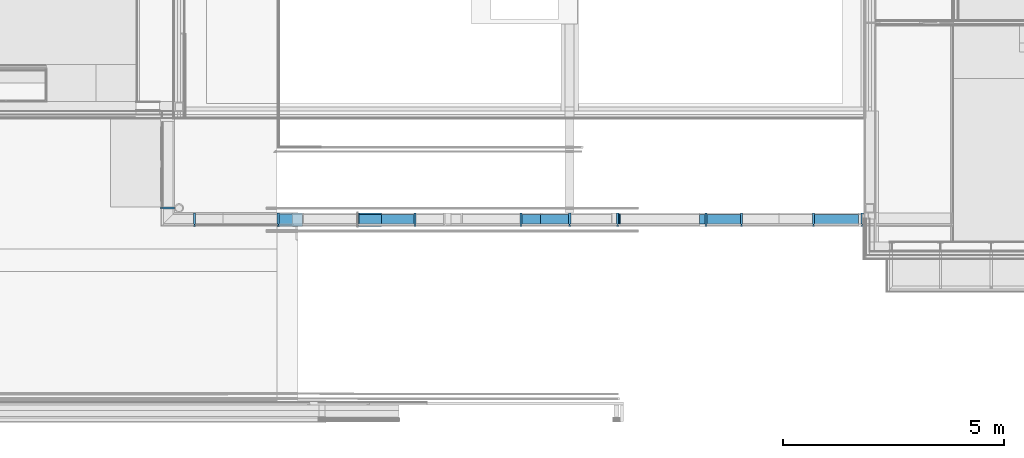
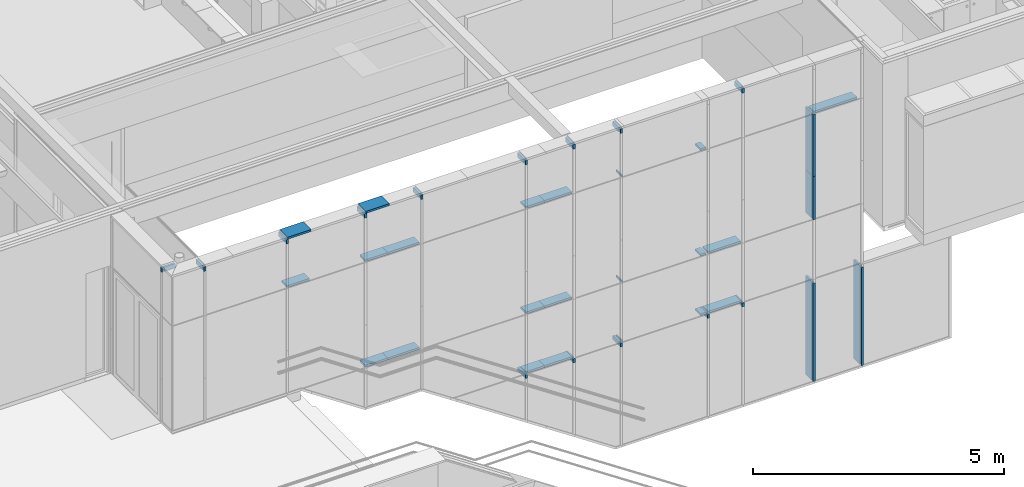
# One storey, part 4 of 137: 40 members, 1 element without a shape of its own.
"""IFC2X3 building model written with IfcOpenShell, lengths in millimetres."""

from ifc_helpers import new_model, entity, si_unit, converted_unit, derived_unit, money_unit, direction, frame, origin_with_axes, place, context, subcontext, project, spatial, faceted_brep, source, transform, mapped, material, type_object, type_shapes, element, aggregate, save


model = new_model("IFC2X3")

# Units and contexts
model_context = context("Model", 3, precision=0.01, world=origin_with_axes(), true_north=direction((0.0, 1.0)))
body_context = subcontext(model_context, "Body", "Model", "MODEL_VIEW")
ifc_project = project(units=[si_unit("LENGTHUNIT", "METRE", prefix="MILLI"), si_unit("AREAUNIT", "SQUARE_METRE"), si_unit("VOLUMEUNIT", "CUBIC_METRE"), converted_unit("PLANEANGLEUNIT", "DEGREE", entity("IfcPlaneAngleMeasure", 0.0174532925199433), si_unit("PLANEANGLEUNIT", "RADIAN"), dimensions=[0, 0, 0, 0, 0, 0, 0]), money_unit("EUR"), converted_unit("TIMEUNIT", "Year", entity("IfcTimeMeasure", 31556926.0), si_unit("TIMEUNIT", "SECOND"), dimensions=[0, 0, 1, 0, 0, 0, 0]), si_unit("MASSUNIT", "GRAM", prefix="KILO"), si_unit("THERMODYNAMICTEMPERATUREUNIT", "DEGREE_CELSIUS"), si_unit("LUMINOUSINTENSITYUNIT", "LUMEN"), si_unit("ENERGYUNIT", "JOULE", prefix="MEGA"), derived_unit("THERMALCONDUCTANCEUNIT", [(si_unit("POWERUNIT", "WATT"), 1), (si_unit("LENGTHUNIT", "METRE"), -1), (si_unit("THERMODYNAMICTEMPERATUREUNIT", "KELVIN"), -1)]), derived_unit("SPECIFICHEATCAPACITYUNIT", [(si_unit("ENERGYUNIT", "JOULE"), 1), (si_unit("MASSUNIT", "GRAM", prefix="KILO"), -1), (si_unit("THERMODYNAMICTEMPERATUREUNIT", "KELVIN"), -1)]), derived_unit("MASSDENSITYUNIT", [(si_unit("MASSUNIT", "GRAM", prefix="KILO"), 1), (si_unit("VOLUMEUNIT", "CUBIC_METRE"), -1)])], contexts=[model_context])

# Site, building, storey
site_placement = place(None, origin_with_axes())
site = spatial("IfcSite", under=ifc_project, at=site_placement, Name="Site", CompositionType="ELEMENT")
building_placement = place(site_placement, origin_with_axes())
building = spatial("IfcBuilding", under=site, at=building_placement, Name="Naam gebouw", CompositionType="ELEMENT")
storey_placement = place(building_placement, frame((0.0, 0.0, 3960.0), z_axis=(0.0, 0.0, 1.0), x_axis=(1.0, 0.0, 0.0)))
storey = spatial("IfcBuildingStorey", under=building, at=storey_placement, Name="1e verdieping", CompositionType="ELEMENT", Elevation=3960.0)

# Curtain wall, members
curtain_wall_type = type_object("IfcCurtainWallType", Name="Curtain Wall Type", PredefinedType="NOTDEFINED")
curtain_wall_placement = place(storey_placement, frame((8473.014787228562, 4364.43626274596, -3949.999921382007), z_axis=(0.0, 0.0, 1.0), x_axis=(1.0, 0.0, 0.0)))
curtain_wall = element("IfcCurtainWall", 1, at=curtain_wall_placement, inside=storey, type_object=curtain_wall_type, Name="21_Vliesgevel-x")
ifc_material = material(Name="Metaal - Staal AFW")
member_type_1 = type_object("IfcMemberType", Name="Transom Frame 50 x 258", PredefinedType="MULLION")
shared_shape_1 = source(origin_with_axes(), body_context, "Body", "Brep", [
    faceted_brep([(25.0, -17.4, 24.99999999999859), (25.0, -17.4, 1020.019917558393), (25.0, -237.0, 1020.019917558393), (25.0, -237.0, 24.99999999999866), (-25.0, -17.4, 24.99999999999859), (-25.0, -17.4, 1020.019917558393), (-25.0, -237.0, 1020.019917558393), (-25.0, -237.0, 24.99999999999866)], [[[0, 1, 2, 3]], [[4, 5, 1, 0]], [[2, 1, 5, 6]], [[3, 2, 6, 7]], [[3, 7, 4, 0]], [[7, 6, 5, 4]]]),
])
member_1_placement = place(curtain_wall_placement, frame((14749.92173186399, -161.4362627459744, 6549.999915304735), z_axis=(1.0, 0.0, 7.203271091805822e-09), x_axis=(-7.203271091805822e-09, 0.0, 1.0)))
member_1 = element("IfcMember", 2, at=member_1_placement, type_object=member_type_1, material=ifc_material, Name="_Kader-x", ObjectType="MULLION", context=body_context, shape_type="MappedRepresentation", body=[
    mapped(shared_shape_1, transform((0.0, 0.0, 0.0))),
])
shared_shape_2 = source(origin_with_axes(), body_context, "Body", "Brep", [
    faceted_brep([(25.0, -17.4, 25.00000025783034), (25.0, -17.4, 52.96129333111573), (25.0, -237.0, 52.96129333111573), (25.0, -237.0, 25.00000351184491), (-25.0, -17.4, 25.00000025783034), (-25.0, -17.4, 52.96129333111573), (-25.0, -237.0, 52.96129333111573), (-25.0, -237.0, 25.00000351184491)], [[[0, 1, 2, 3]], [[4, 5, 1, 0]], [[2, 1, 5, 6]], [[3, 2, 6, 7]], [[3, 7, 4, 0]], [[7, 6, 5, 4]]]),
])
member_2_placement = place(curtain_wall_placement, frame((10316.98035228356, -161.4362627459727, 2535.000025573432), z_axis=(1.0, 0.0, 0.0), x_axis=(0.0, 0.0, 1.0)))
member_2 = element("IfcMember", 3, at=member_2_placement, type_object=member_type_1, material=ifc_material, Name="h METAAL_Kader-x", ObjectType="MULLION", context=body_context, shape_type="MappedRepresentation", body=[
    mapped(shared_shape_2, transform((0.0, 0.0, 0.0))),
])
member_3_placement = place(curtain_wall_placement, frame((10316.98037376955, -161.4362627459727, 3984.999927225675), z_axis=(1.0, 0.0, 0.0), x_axis=(0.0, 0.0, 1.0)))
member_3 = element("IfcMember", 4, at=member_3_placement, type_object=member_type_1, material=ifc_material, Name="_Kader-x", ObjectType="MULLION", context=body_context, shape_type="MappedRepresentation", body=[
    mapped(shared_shape_2, transform((0.0, 0.0, 0.0))),
])
member_4_placement = place(curtain_wall_placement, frame((10316.98037468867, -161.4362627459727, 6549.999915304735), z_axis=(1.0, 0.0, 0.0), x_axis=(0.0, 0.0, 1.0)))
member_4 = element("IfcMember", 5, at=member_4_placement, type_object=member_type_1, material=ifc_material, Name="_Kader-x", ObjectType="MULLION", context=body_context, shape_type="MappedRepresentation", body=[
    mapped(shared_shape_2, transform((0.0, 0.0, 0.0))),
])
shared_shape_3 = source(origin_with_axes(), body_context, "Body", "Brep", [
    faceted_brep([(25.0, -17.4, 24.99999999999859), (25.0, -17.4, 442.9619304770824), (25.0, -237.0, 442.9619304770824), (25.0, -237.0, 24.99999999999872), (-25.0, -17.4, 24.99999999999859), (-25.0, -17.4, 442.9619304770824), (-25.0, -237.0, 442.9619304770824), (-25.0, -237.0, 24.99999999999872)], [[[0, 1, 2, 3]], [[4, 5, 1, 0]], [[2, 1, 5, 6]], [[3, 2, 6, 7]], [[3, 7, 4, 0]], [[7, 6, 5, 4]]]),
])
member_5_placement = place(curtain_wall_placement, frame((8126.979715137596, -161.4362627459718, 2535.000025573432), z_axis=(1.0, 0.0, 0.0), x_axis=(0.0, 0.0, 1.0)))
member_5 = element("IfcMember", 6, at=member_5_placement, type_object=member_type_1, material=ifc_material, Name="h METAAL_Kader-x", ObjectType="MULLION", context=body_context, shape_type="MappedRepresentation", body=[
    mapped(shared_shape_3, transform((0.0, 0.0, 0.0))),
])
member_6_placement = place(curtain_wall_placement, frame((8126.979715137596, -161.4362627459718, 3984.999927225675), z_axis=(1.0, 0.0, 0.0), x_axis=(0.0, 0.0, 1.0)))
member_6 = element("IfcMember", 7, at=member_6_placement, type_object=member_type_1, material=ifc_material, Name="_Kader-x", ObjectType="MULLION", context=body_context, shape_type="MappedRepresentation", body=[
    mapped(shared_shape_3, transform((0.0, 0.0, 0.0))),
])
member_7_placement = place(curtain_wall_placement, frame((8126.979717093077, -161.4362627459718, 6549.999915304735), z_axis=(1.0, 0.0, 0.0), x_axis=(0.0, 0.0, 1.0)))
member_7 = element("IfcMember", 8, at=member_7_placement, type_object=member_type_1, material=ifc_material, Name="_Kader-x", ObjectType="MULLION", context=body_context, shape_type="MappedRepresentation", body=[
    mapped(shared_shape_3, transform((0.0, 0.0, 0.0))),
])
shared_shape_4 = source(origin_with_axes(), body_context, "Body", "Brep", [
    faceted_brep([(25.0, -17.4, 25.00000020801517), (25.0, -17.4, 542.9612623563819), (25.0, -237.0, 542.9612623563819), (25.0, -237.0, 25.00000283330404), (-25.0, -17.4, 25.00000020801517), (-25.0, -17.4, 542.9612623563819), (-25.0, -237.0, 542.9612623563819), (-25.0, -237.0, 25.00000283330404)], [[[0, 1, 2, 3]], [[4, 5, 1, 0]], [[2, 1, 5, 6]], [[3, 2, 6, 7]], [[3, 7, 4, 0]], [[7, 6, 5, 4]]]),
])
member_8_placement = place(curtain_wall_placement, frame((4426.980383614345, -161.43626274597, 3984.999924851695), z_axis=(1.0, 0.0, 1.195486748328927e-08), x_axis=(-1.195486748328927e-08, 0.0, 1.0)))
member_8 = element("IfcMember", 9, at=member_8_placement, type_object=member_type_1, material=ifc_material, Name="h METAAL_Kader-x", ObjectType="MULLION", context=body_context, shape_type="MappedRepresentation", body=[
    mapped(shared_shape_4, transform((0.0, 0.0, 0.0))),
])
member_9_placement = place(curtain_wall_placement, frame((2626.986522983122, -161.43626274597, 6549.999915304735), z_axis=(1.0, 0.0, 0.0), x_axis=(0.0, 0.0, 1.0)))
member_9 = element("IfcMember", 10, at=member_9_placement, type_object=member_type_1, material=ifc_material, Name="_Kader-x", ObjectType="MULLION", context=body_context, shape_type="MappedRepresentation", body=[
    mapped(shared_shape_4, transform((0.0, 0.0, 0.0))),
])
member_10_placement = place(curtain_wall_placement, frame((4426.980398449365, -161.43626274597, 6549.999915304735), z_axis=(1.0, 0.0, 0.0), x_axis=(0.0, 0.0, 1.0)))
member_10 = element("IfcMember", 11, at=member_10_placement, type_object=member_type_1, material=ifc_material, Name="_Kader-x", ObjectType="MULLION", context=body_context, shape_type="MappedRepresentation", body=[
    mapped(shared_shape_4, transform((0.0, 0.0, 0.0))),
])
member_type_2 = type_object("IfcMemberType", Name="Mullion Frame 50 x 313", PredefinedType="MULLION")
shared_shape_5 = source(origin_with_axes(), body_context, "Body", "Brep", [
    faceted_brep([(10.0, -17.4, -2.010167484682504e-07), (10.0, 21.0, -2.010167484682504e-07), (10.0, 21.0, 95.00025928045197), (10.0, -17.4, 95.00025928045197), (-10.0, -17.4, -2.010167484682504e-07), (-10.0, 21.0, -2.010167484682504e-07), (-10.0, 21.0, 95.00025928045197), (-10.0, -17.4, 95.00025928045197)], [[[0, 1, 2, 3]], [[0, 4, 5, 1]], [[1, 5, 6, 2]], [[3, 2, 6, 7]], [[4, 0, 3, 7]], [[5, 4, 7, 6]]]),
    faceted_brep([(25.0, -272.0, -2.010167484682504e-07), (25.0, -17.4, -2.010167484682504e-07), (25.0, -17.4, 95.00025928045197), (25.0, -272.0, 95.00025928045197), (-25.0, -272.0, -2.010167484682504e-07), (-25.0, -17.4, -2.010167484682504e-07), (-25.0, -17.4, 95.00025928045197), (-25.0, -272.0, 95.00025928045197)], [[[0, 1, 2, 3]], [[0, 4, 5, 1]], [[1, 5, 6, 2]], [[3, 2, 6, 7]], [[4, 0, 3, 7]], [[5, 4, 7, 6]]]),
    faceted_brep([(-25.0, 40.49999999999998, -2.010167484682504e-07), (-25.0, 21.0, -2.010167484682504e-07), (-25.0, 21.0, 95.00025928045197), (-25.0, 40.49999999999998, 95.00025928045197), (25.0, 40.49999999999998, -2.010167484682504e-07), (25.0, 21.0, -2.010167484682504e-07), (25.0, 21.0, 95.00025928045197), (25.0, 40.49999999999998, 95.00025928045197)], [[[0, 1, 2, 3]], [[0, 4, 5, 1]], [[1, 5, 6, 2]], [[3, 2, 6, 7]], [[4, 0, 3, 7]], [[5, 4, 7, 6]]]),
])
member_11_placement = place(curtain_wall_placement, frame((13116.98043337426, -161.4362627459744, 2439.99976629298), z_axis=(0.0, 0.0, 1.0), x_axis=(-1.0, 0.0, 0.0)))
member_11 = element("IfcMember", 12, at=member_11_placement, type_object=member_type_2, material=ifc_material, Name="_Kader-x", ObjectType="MULLION", context=body_context, shape_type="MappedRepresentation", body=[
    mapped(shared_shape_5, transform((0.0, 0.0, 0.0))),
])
member_12_placement = place(curtain_wall_placement, frame((12316.98041549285, -161.4362627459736, 2439.99976629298), z_axis=(0.0, 0.0, 1.0), x_axis=(-1.0, 0.0, 0.0)))
member_12 = element("IfcMember", 13, at=member_12_placement, type_object=member_type_2, material=ifc_material, Name="_Kader-x", ObjectType="MULLION", context=body_context, shape_type="MappedRepresentation", body=[
    mapped(shared_shape_5, transform((0.0, 0.0, 0.0))),
])
member_type_3 = type_object("IfcMemberType", Name="50 x 313", PredefinedType="MULLION")
member_13_placement = place(curtain_wall_placement, frame((9226.979747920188, -161.4362627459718, 2439.99976629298), z_axis=(0.0, 0.0, 1.0), x_axis=(-1.0, 0.0, 0.0)))
member_13 = element("IfcMember", 14, at=member_13_placement, type_object=member_type_3, material=ifc_material, Name="_Kader-x", ObjectType="MULLION", context=body_context, shape_type="MappedRepresentation", body=[
    mapped(shared_shape_5, transform((0.0, 0.0, 0.0))),
])
member_14_placement = place(curtain_wall_placement, frame((10316.98035087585, -161.4362627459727, 2439.99976629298), z_axis=(1.481791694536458e-08, 0.0, 1.0), x_axis=(-1.0, 0.0, 1.481791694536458e-08)))
member_14 = element("IfcMember", 15, at=member_14_placement, type_object=member_type_2, material=ifc_material, Name="_Kader-x", ObjectType="MULLION", context=body_context, shape_type="MappedRepresentation", body=[
    mapped(shared_shape_5, transform((0.0, 0.0, 0.0))),
])
member_15_placement = place(curtain_wall_placement, frame((8126.979732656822, -161.4362627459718, 2439.99976629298), z_axis=(-1.844124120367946e-07, 0.0, 0.999999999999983), x_axis=(-0.999999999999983, 0.0, -1.844124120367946e-07)))
member_15 = element("IfcMember", 16, at=member_15_placement, type_object=member_type_2, material=ifc_material, Name="_Kader-x", ObjectType="MULLION", context=body_context, shape_type="MappedRepresentation", body=[
    mapped(shared_shape_5, transform((0.0, 0.0, 0.0))),
])
shared_shape_6 = source(origin_with_axes(), body_context, "Body", "Brep", [
    faceted_brep([(10.0, -17.4, 0.0), (10.0, 21.0, 0.0), (10.0, 21.0, 1054.999839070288), (10.0, -17.4, 1054.999839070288), (-10.0, -17.4, 0.0), (-10.0, 21.0, 0.0), (-10.0, 21.0, 1054.999839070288), (-10.0, -17.4, 1054.999839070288)], [[[0, 1, 2, 3]], [[0, 4, 5, 1]], [[1, 5, 6, 2]], [[3, 2, 6, 7]], [[4, 0, 3, 7]], [[5, 4, 7, 6]]]),
    faceted_brep([(25.0, -272.0, 0.0), (25.0, -17.4, 0.0), (25.0, -17.4, 1054.999839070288), (25.0, -272.0, 1054.999839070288), (-25.0, -272.0, 0.0), (-25.0, -17.4, 0.0), (-25.0, -17.4, 1054.999839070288), (-25.0, -272.0, 1054.999839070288)], [[[0, 1, 2, 3]], [[0, 4, 5, 1]], [[1, 5, 6, 2]], [[3, 2, 6, 7]], [[4, 0, 3, 7]], [[5, 4, 7, 6]]]),
    faceted_brep([(-25.0, 40.49999999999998, 0.0), (-25.0, 21.0, 0.0), (-25.0, 21.0, 1054.999839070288), (-25.0, 40.49999999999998, 1054.999839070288), (25.0, 40.49999999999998, 0.0), (25.0, 21.0, 0.0), (25.0, 21.0, 1054.999839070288), (25.0, 40.49999999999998, 1054.999839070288)], [[[0, 1, 2, 3]], [[0, 4, 5, 1]], [[1, 5, 6, 2]], [[3, 2, 6, 7]], [[4, 0, 3, 7]], [[5, 4, 7, 6]]]),
])
member_16_placement = place(curtain_wall_placement, frame((14749.92173168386, -161.4362627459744, 3984.999927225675), z_axis=(0.0, 0.0, 1.0), x_axis=(-1.0, 0.0, 0.0)))
member_16 = element("IfcMember", 17, at=member_16_placement, type_object=member_type_2, material=ifc_material, Name="h METAAL_Kader-x", ObjectType="MULLION", context=body_context, shape_type="MappedRepresentation", body=[
    mapped(shared_shape_6, transform((0.0, 0.0, 0.0))),
])
shared_shape_7 = source(origin_with_axes(), body_context, "Body", "Brep", [
    faceted_brep([(10.0, 21.0, 49.99999983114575), (10.0, 21.0, 2439.999727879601), (10.0, -17.4, 2439.999727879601), (10.0, -17.4, 50.00000013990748), (-10.0, 21.0, 49.99999983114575), (-10.0, 21.0, 2439.999727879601), (-10.0, -17.4, 2439.999727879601), (-10.0, -17.4, 50.00000013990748)], [[[0, 1, 2, 3]], [[4, 5, 1, 0]], [[2, 1, 5, 6]], [[3, 2, 6, 7]], [[3, 7, 4, 0]], [[7, 6, 5, 4]]]),
    faceted_brep([(25.0, -17.4, 50.00000013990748), (25.0, -17.4, 2439.999727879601), (25.0, -272.0, 2439.999727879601), (25.0, -272.0, 50.00000218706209), (-25.0, -17.4, 50.00000013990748), (-25.0, -17.4, 2439.999727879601), (-25.0, -272.0, 2439.999727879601), (-25.0, -272.0, 50.00000218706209)], [[[0, 1, 2, 3]], [[4, 5, 1, 0]], [[2, 1, 5, 6]], [[3, 2, 6, 7]], [[3, 7, 4, 0]], [[7, 6, 5, 4]]]),
    faceted_brep([(-25.0, 21.0, 49.99999983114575), (-25.0, 21.0, 2439.999727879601), (-25.0, 40.49999999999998, 2439.999727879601), (-25.0, 40.49999999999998, 49.99999967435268), (25.0, 21.0, 49.99999983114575), (25.0, 21.0, 2439.999727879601), (25.0, 40.49999999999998, 2439.999727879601), (25.0, 40.49999999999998, 49.99999967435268)], [[[0, 1, 2, 3]], [[4, 5, 1, 0]], [[2, 1, 5, 6]], [[3, 2, 6, 7]], [[3, 7, 4, 0]], [[7, 6, 5, 4]]]),
])
member_17_placement = place(curtain_wall_placement, frame((14749.9217513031, -161.4362627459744, 3.861439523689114e-05), z_axis=(-8.040669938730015e-09, 0.0, 1.0), x_axis=(-1.0, 0.0, -8.040669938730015e-09)))
member_17 = element("IfcMember", 18, at=member_17_placement, type_object=member_type_2, material=ifc_material, Name="h METAAL_Kader-x", ObjectType="MULLION", context=body_context, shape_type="MappedRepresentation", body=[
    mapped(shared_shape_7, transform((0.0, 0.0, 0.0))),
])
member_18_placement = place(curtain_wall_placement, frame((15856.6559201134, -161.4362627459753, 3.704461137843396e-05), z_axis=(9.58128546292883e-09, 0.0, 1.0), x_axis=(-1.0, 0.0, 9.58128546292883e-09)))
member_18 = element("IfcMember", 19, at=member_18_placement, type_object=member_type_2, material=ifc_material, Name="_Kader-x", ObjectType="MULLION", context=body_context, shape_type="MappedRepresentation", body=[
    mapped(shared_shape_7, transform((0.0, 0.0, 0.0))),
])
shared_shape_8 = source(origin_with_axes(), body_context, "Body", "Brep", [
    faceted_brep([(10.0, -17.4, -4.762904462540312e-09), (10.0, 21.0, -4.762904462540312e-09), (10.0, 21.0, 1510.000149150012), (10.0, -17.4, 1510.000149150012), (-10.0, -17.4, -4.762904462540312e-09), (-10.0, 21.0, -4.762904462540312e-09), (-10.0, 21.0, 1510.000149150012), (-10.0, -17.4, 1510.000149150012)], [[[0, 1, 2, 3]], [[0, 4, 5, 1]], [[1, 5, 6, 2]], [[3, 2, 6, 7]], [[4, 0, 3, 7]], [[5, 4, 7, 6]]]),
    faceted_brep([(25.0, -272.0, -4.762904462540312e-09), (25.0, -17.4, -4.762904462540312e-09), (25.0, -17.4, 1510.000149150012), (25.0, -272.0, 1510.000149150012), (-25.0, -272.0, -4.762904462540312e-09), (-25.0, -17.4, -4.762904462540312e-09), (-25.0, -17.4, 1510.000149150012), (-25.0, -272.0, 1510.000149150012)], [[[0, 1, 2, 3]], [[0, 4, 5, 1]], [[1, 5, 6, 2]], [[3, 2, 6, 7]], [[4, 0, 3, 7]], [[5, 4, 7, 6]]]),
    faceted_brep([(-25.0, 40.49999999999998, -4.762904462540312e-09), (-25.0, 21.0, -4.762904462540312e-09), (-25.0, 21.0, 1510.000149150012), (-25.0, 40.49999999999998, 1510.000149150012), (25.0, 40.49999999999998, -4.762904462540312e-09), (25.0, 21.0, -4.762904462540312e-09), (25.0, 21.0, 1510.000149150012), (25.0, 40.49999999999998, 1510.000149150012)], [[[0, 1, 2, 3]], [[0, 4, 5, 1]], [[1, 5, 6, 2]], [[3, 2, 6, 7]], [[4, 0, 3, 7]], [[5, 4, 7, 6]]]),
])
member_19_placement = place(curtain_wall_placement, frame((14749.92173168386, -161.4362627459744, 5039.999766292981), z_axis=(1.192864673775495e-10, 0.0, 1.0), x_axis=(-1.0, 0.0, 1.192864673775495e-10)))
member_19 = element("IfcMember", 20, at=member_19_placement, type_object=member_type_2, material=ifc_material, Name="_Kader-x", ObjectType="MULLION", context=body_context, shape_type="MappedRepresentation", body=[
    mapped(shared_shape_8, transform((0.0, 0.0, 0.0))),
])
shared_shape_9 = source(origin_with_axes(), body_context, "Body", "Brep", [
    faceted_brep([(25.0, -17.4, 24.99999999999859), (25.0, -17.4, 775.000017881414), (25.0, -237.0, 775.0000178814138), (25.0, -237.0, 24.99999999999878), (-25.0, -17.4, 24.99999999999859), (-25.0, -17.4, 775.000017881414), (-25.0, -237.0, 775.0000178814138), (-25.0, -237.0, 24.99999999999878)], [[[0, 1, 2, 3]], [[4, 5, 1, 0]], [[2, 1, 5, 6]], [[3, 2, 6, 7]], [[3, 7, 4, 0]], [[7, 6, 5, 4]]]),
])
member_20_placement = place(curtain_wall_placement, frame((12316.98041549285, -161.4362627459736, 2535.000025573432), z_axis=(1.0, 0.0, 0.0), x_axis=(0.0, 0.0, 1.0)))
member_20 = element("IfcMember", 21, at=member_20_placement, type_object=member_type_1, material=ifc_material, Name="h METAAL_Kader-x", ObjectType="MULLION", context=body_context, shape_type="MappedRepresentation", body=[
    mapped(shared_shape_9, transform((0.0, 0.0, 0.0))),
])
member_21_placement = place(curtain_wall_placement, frame((12316.98041549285, -161.4362627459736, 3984.999927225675), z_axis=(1.0, 0.0, 0.0), x_axis=(0.0, 0.0, 1.0)))
member_21 = element("IfcMember", 22, at=member_21_placement, type_object=member_type_1, material=ifc_material, Name="_Kader-x", ObjectType="MULLION", context=body_context, shape_type="MappedRepresentation", body=[
    mapped(shared_shape_9, transform((0.0, 0.0, 0.0))),
])
shared_shape_10 = source(origin_with_axes(), body_context, "Body", "Brep", [
    faceted_brep([(25.0, -237.0, 0.0), (25.0, -17.4, 0.0), (25.0, -17.4, 122.03876987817), (25.0, -237.0, 122.0387698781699), (-25.0, -237.0, 0.0), (-25.0, -17.4, 0.0), (-25.0, -17.4, 122.03876987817), (-25.0, -237.0, 122.0387698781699)], [[[0, 1, 2, 3]], [[0, 4, 5, 1]], [[1, 5, 6, 2]], [[3, 2, 6, 7]], [[4, 0, 3, 7]], [[5, 4, 7, 6]]]),
])
member_22_placement = place(curtain_wall_placement, frame((12169.94164561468, -161.4362627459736, 3984.999927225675), z_axis=(1.0, 0.0, 0.0), x_axis=(0.0, 0.0, 1.0)))
member_22 = element("IfcMember", 23, at=member_22_placement, type_object=member_type_1, material=ifc_material, Name="h METAAL_Kader-x", ObjectType="MULLION", context=body_context, shape_type="MappedRepresentation", body=[
    mapped(shared_shape_10, transform((0.0, 0.0, 0.0))),
])
member_23_placement = place(curtain_wall_placement, frame((12169.94164561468, -161.4362627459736, 2535.000025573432), z_axis=(1.0, 0.0, 0.0), x_axis=(0.0, 0.0, 1.0)))
member_23 = element("IfcMember", 24, at=member_23_placement, type_object=member_type_1, material=ifc_material, Name="_Kader-x", ObjectType="MULLION", context=body_context, shape_type="MappedRepresentation", body=[
    mapped(shared_shape_10, transform((0.0, 0.0, 0.0))),
])
member_24_placement = place(curtain_wall_placement, frame((12169.94164561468, -161.4362627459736, 6549.999915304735), z_axis=(1.0, 0.0, 0.0), x_axis=(0.0, 0.0, 1.0)))
member_24 = element("IfcMember", 25, at=member_24_placement, type_object=member_type_1, material=ifc_material, Name="_Kader-x", ObjectType="MULLION", context=body_context, shape_type="MappedRepresentation", body=[
    mapped(shared_shape_10, transform((0.0, 0.0, 0.0))),
])
shared_shape_11 = source(origin_with_axes(), body_context, "Body", "Brep", [
    faceted_brep([(25.0, -237.0, 0.0), (25.0, -17.4, 0.0), (25.0, -17.4, 632.0381023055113), (25.0, -237.0, 632.0381023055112), (-25.0, -237.0, 0.0), (-25.0, -17.4, 0.0), (-25.0, -17.4, 632.0381023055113), (-25.0, -237.0, 632.0381023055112)], [[[0, 1, 2, 3]], [[0, 4, 5, 1]], [[1, 5, 6, 2]], [[3, 2, 6, 7]], [[4, 0, 3, 7]], [[5, 4, 7, 6]]]),
])
member_25_placement = place(curtain_wall_placement, frame((8569.941645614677, -161.4362627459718, 3984.999927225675), z_axis=(1.0, 0.0, 0.0), x_axis=(0.0, 0.0, 1.0)))
member_25 = element("IfcMember", 26, at=member_25_placement, type_object=member_type_1, material=ifc_material, Name="_Kader-x", ObjectType="MULLION", context=body_context, shape_type="MappedRepresentation", body=[
    mapped(shared_shape_11, transform((0.0, 0.0, 0.0))),
])
member_26_placement = place(curtain_wall_placement, frame((8569.941645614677, -161.4362627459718, 2535.000025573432), z_axis=(1.0, 0.0, 0.0), x_axis=(0.0, 0.0, 1.0)))
member_26 = element("IfcMember", 27, at=member_26_placement, type_object=member_type_1, material=ifc_material, Name="h METAAL_Kader-x", ObjectType="MULLION", context=body_context, shape_type="MappedRepresentation", body=[
    mapped(shared_shape_11, transform((0.0, 0.0, 0.0))),
])
member_27_placement = place(curtain_wall_placement, frame((8569.941645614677, -161.4362627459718, 6549.999915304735), z_axis=(1.0, 0.0, 0.0), x_axis=(0.0, 0.0, 1.0)))
member_27 = element("IfcMember", 28, at=member_27_placement, type_object=member_type_1, material=ifc_material, Name="_Kader-x", ObjectType="MULLION", context=body_context, shape_type="MappedRepresentation", body=[
    mapped(shared_shape_11, transform((0.0, 0.0, 0.0))),
])
shared_shape_12 = source(origin_with_axes(), body_context, "Body", "Brep", [
    faceted_brep([(25.0, -237.0, -3.560529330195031e-07), (25.0, -17.4, -3.560529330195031e-07), (25.0, -17.4, 727.0387489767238), (25.0, -237.0, 727.0387484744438), (-25.0, -237.0, -3.560529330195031e-07), (-25.0, -17.4, -3.560529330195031e-07), (-25.0, -17.4, 727.0387489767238), (-25.0, -237.0, 727.0387484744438)], [[[0, 1, 2, 3]], [[0, 4, 5, 1]], [[1, 5, 6, 2]], [[3, 2, 6, 7]], [[4, 0, 3, 7]], [[5, 4, 7, 6]]]),
])
type_shapes(member_type_1, [shared_shape_1, shared_shape_2, shared_shape_3, shared_shape_4, shared_shape_9, shared_shape_10, shared_shape_11, shared_shape_12])
member_28_placement = place(curtain_wall_placement, frame((4969.941645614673, -161.43626274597, 3984.999931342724), z_axis=(1.0, 0.0, -2.287249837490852e-09), x_axis=(2.287249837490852e-09, 0.0, 1.0)))
member_28 = element("IfcMember", 29, at=member_28_placement, type_object=member_type_1, material=ifc_material, Name="h METAAL_Kader-x", ObjectType="MULLION", context=body_context, shape_type="MappedRepresentation", body=[
    mapped(shared_shape_12, transform((0.0, 0.0, 0.0))),
])
member_29_placement = place(curtain_wall_placement, frame((4969.941645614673, -161.43626274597, 6549.999915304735), z_axis=(1.0, 0.0, 0.0), x_axis=(0.0, 0.0, 1.0)))
member_29 = element("IfcMember", 30, at=member_29_placement, type_object=member_type_1, material=ifc_material, Name="_Kader-x", ObjectType="MULLION", context=body_context, shape_type="MappedRepresentation", body=[
    mapped(shared_shape_12, transform((0.0, 0.0, 0.0))),
])
member_type_4 = type_object("IfcMemberType", Name="Boundary Frame 50 x 313", PredefinedType="MULLION")
shared_shape_13 = source(origin_with_axes(), body_context, "Body", "Brep", [
    faceted_brep([(-35.0, -17.4, 0.0), (-35.0, -17.4, 542.9551298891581), (-35.0, 21.0, 542.9551298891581), (-35.0, 21.0, 0.0), (-15.0, -17.4, 0.0), (-15.0, -17.4, 542.9551298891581), (-15.0, 21.0, 542.9551298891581), (-15.0, 21.0, 0.0)], [[[0, 1, 2, 3]], [[4, 5, 1, 0]], [[1, 5, 6, 2]], [[3, 2, 6, 7]], [[0, 3, 7, 4]], [[7, 6, 5, 4]]]),
    faceted_brep([(-15.0, -21.0, 0.0), (-15.0, -21.0, 542.9551298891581), (-15.0, 21.0, 542.9551298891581), (-15.0, 21.0, 0.0), (0.0, -21.0, 0.0), (0.0, -21.0, 542.9551298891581), (0.0, 21.0, 542.9551298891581), (0.0, 21.0, 0.0)], [[[0, 1, 2, 3]], [[4, 5, 1, 0]], [[1, 5, 6, 2]], [[3, 2, 6, 7]], [[0, 3, 7, 4]], [[7, 6, 5, 4]]]),
    faceted_brep([(-50.0, -272.0, 0.0), (-50.0, -272.0, 542.9551298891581), (-50.0, -17.4, 542.9551298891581), (-50.0, -17.4, 0.0), (0.0, -272.0, 0.0), (0.0, -272.0, 542.9551298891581), (0.0, -17.4, 542.9551298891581), (0.0, -17.4, 0.0)], [[[0, 1, 2, 3]], [[4, 5, 1, 0]], [[1, 5, 6, 2]], [[3, 2, 6, 7]], [[0, 3, 7, 4]], [[7, 6, 5, 4]]]),
    faceted_brep([(0.0, 40.99999999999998, 0.0), (0.0, 40.99999999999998, 542.9551298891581), (0.0, 21.0, 542.9551298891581), (0.0, 21.0, 0.0), (-50.0, 40.99999999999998, 0.0), (-50.0, 40.99999999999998, 542.9551298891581), (-50.0, 21.0, 542.9551298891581), (-50.0, 21.0, 0.0)], [[[0, 1, 2, 3]], [[4, 5, 1, 0]], [[1, 5, 6, 2]], [[3, 2, 6, 7]], [[0, 3, 7, 4]], [[7, 6, 5, 4]]]),
])
type_shapes(member_type_4, [shared_shape_13])
member_30_placement = place(curtain_wall_placement, frame((4426.980388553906, -161.43626274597, 7800.000020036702), z_axis=(1.0, 0.0, 0.0), x_axis=(0.0, 0.0, 1.0)))
member_30 = element("IfcMember", 31, at=member_30_placement, type_object=member_type_4, material=ifc_material, Name="_Kader-x", ObjectType="MULLION", context=body_context, shape_type="MappedRepresentation", body=[
    mapped(shared_shape_13, transform((0.0, 0.0, 0.0))),
])
member_31_placement = place(curtain_wall_placement, frame((2626.986515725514, -161.43626274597, 7800.000020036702), z_axis=(1.0, 0.0, 0.0), x_axis=(0.0, 0.0, 1.0)))
member_31 = element("IfcMember", 32, at=member_31_placement, type_object=member_type_4, material=ifc_material, Name="h METAAL_Kader-x", ObjectType="MULLION", context=body_context, shape_type="MappedRepresentation", body=[
    mapped(shared_shape_13, transform((0.0, 0.0, 0.0))),
])
shared_shape_14 = source(origin_with_axes(), body_context, "Body", "Brep", [
    faceted_brep([(10.0, -17.4, -4.973650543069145e-06), (10.0, 21.0, -4.973650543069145e-06), (10.0, 21.0, 110.0002575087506), (10.0, -17.4, 110.0002506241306), (-10.0, -17.4, -4.973650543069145e-06), (-10.0, 21.0, -4.973650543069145e-06), (-10.0, 21.0, 110.0002575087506), (-10.0, -17.4, 110.0002506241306)], [[[0, 1, 2, 3]], [[0, 4, 5, 1]], [[1, 5, 6, 2]], [[3, 2, 6, 7]], [[4, 0, 3, 7]], [[5, 4, 7, 6]]]),
    faceted_brep([(25.0, -272.0, -4.973650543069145e-06), (25.0, -17.4, -4.973650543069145e-06), (25.0, -17.4, 110.0002506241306), (25.0, -272.0, 110.000204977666), (-25.0, -272.0, -4.973650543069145e-06), (-25.0, -17.4, -4.973650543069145e-06), (-25.0, -17.4, 110.0002506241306), (-25.0, -272.0, 110.000204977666)], [[[0, 1, 2, 3]], [[0, 4, 5, 1]], [[1, 5, 6, 2]], [[3, 2, 6, 7]], [[4, 0, 3, 7]], [[5, 4, 7, 6]]]),
    faceted_brep([(-25.0, 40.49999999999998, -4.973650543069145e-06), (-25.0, 21.0, -4.973650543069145e-06), (-25.0, 21.0, 110.0002575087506), (-25.0, 40.49999999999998, 110.0002610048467), (25.0, 40.49999999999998, -4.973650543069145e-06), (25.0, 21.0, -4.973650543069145e-06), (25.0, 21.0, 110.0002575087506), (25.0, 40.49999999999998, 110.0002610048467)], [[[0, 1, 2, 3]], [[0, 4, 5, 1]], [[1, 5, 6, 2]], [[3, 2, 6, 7]], [[4, 0, 3, 7]], [[5, 4, 7, 6]]]),
])
type_shapes(member_type_2, [shared_shape_5, shared_shape_6, shared_shape_7, shared_shape_8, shared_shape_14])
type_shapes(member_type_3, [shared_shape_8, shared_shape_5, shared_shape_6, shared_shape_14])
member_32_placement = place(curtain_wall_placement, frame((2626.986544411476, -161.43626274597, 7639.999766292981), z_axis=(-1.792869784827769e-07, 0.0, 0.9999999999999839), x_axis=(-0.9999999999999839, 0.0, -1.792869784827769e-07)))
member_32 = element("IfcMember", 33, at=member_32_placement, type_object=member_type_2, material=ifc_material, Name="h METAAL_Kader-x", ObjectType="MULLION", context=body_context, shape_type="MappedRepresentation", body=[
    mapped(shared_shape_14, transform((0.0, 0.0, 0.0))),
])
member_33_placement = place(curtain_wall_placement, frame((4426.980390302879, -161.43626274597, 7639.999766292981), z_axis=(-1.09310609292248e-08, 0.0, 1.0), x_axis=(-1.0, 0.0, -1.09310609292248e-08)))
member_33 = element("IfcMember", 34, at=member_33_placement, type_object=member_type_2, material=ifc_material, Name="_Kader-x", ObjectType="MULLION", context=body_context, shape_type="MappedRepresentation", body=[
    mapped(shared_shape_14, transform((0.0, 0.0, 0.0))),
])
member_34_placement = place(curtain_wall_placement, frame((8126.979759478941, -161.4362627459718, 7639.999766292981), z_axis=(-3.633598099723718e-07, 0.0, 0.999999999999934), x_axis=(-0.999999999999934, 0.0, -3.633598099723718e-07)))
member_34 = element("IfcMember", 35, at=member_34_placement, type_object=member_type_2, material=ifc_material, Name="_Kader-x", ObjectType="MULLION", context=body_context, shape_type="MappedRepresentation", body=[
    mapped(shared_shape_14, transform((0.0, 0.0, 0.0))),
])
member_35_placement = place(curtain_wall_placement, frame((5721.980392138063, -161.43626274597, 7639.999766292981), z_axis=(-8.398978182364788e-08, 0.0, 0.9999999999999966), x_axis=(-0.9999999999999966, 0.0, -8.398978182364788e-08)))
member_35 = element("IfcMember", 36, at=member_35_placement, type_object=member_type_2, material=ifc_material, Name="_Kader-x", ObjectType="MULLION", context=body_context, shape_type="MappedRepresentation", body=[
    mapped(shared_shape_14, transform((0.0, 0.0, 0.0))),
])
member_36_placement = place(curtain_wall_placement, frame((9226.979732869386, -161.4362627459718, 7639.999766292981), z_axis=(-6.489873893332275e-08, 0.0, 0.9999999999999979), x_axis=(-0.9999999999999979, 0.0, -6.489873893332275e-08)))
member_36 = element("IfcMember", 37, at=member_36_placement, type_object=member_type_3, material=ifc_material, Name="_Kader-x", ObjectType="MULLION", context=body_context, shape_type="MappedRepresentation", body=[
    mapped(shared_shape_14, transform((0.0, 0.0, 0.0))),
])
member_37_placement = place(curtain_wall_placement, frame((10316.98039461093, -161.4362627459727, 7639.999766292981), z_axis=(-9.985501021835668e-08, 0.0, 0.999999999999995), x_axis=(-0.999999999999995, 0.0, -9.985501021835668e-08)))
member_37 = element("IfcMember", 38, at=member_37_placement, type_object=member_type_2, material=ifc_material, Name="_Kader-x", ObjectType="MULLION", context=body_context, shape_type="MappedRepresentation", body=[
    mapped(shared_shape_14, transform((0.0, 0.0, 0.0))),
])
member_38_placement = place(curtain_wall_placement, frame((13116.98042685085, -161.4362627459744, 7639.999766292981), z_axis=(-7.831183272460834e-08, 0.0, 0.999999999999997), x_axis=(-0.999999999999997, 0.0, -7.831183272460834e-08)))
member_38 = element("IfcMember", 39, at=member_38_placement, type_object=member_type_2, material=ifc_material, Name="_Kader-x", ObjectType="MULLION", context=body_context, shape_type="MappedRepresentation", body=[
    mapped(shared_shape_14, transform((0.0, 0.0, 0.0))),
])
member_39_placement = place(curtain_wall_placement, frame((0.0, 215.2483449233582, 7639.999766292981), z_axis=(0.0, 0.0, 1.0), x_axis=(0.0, 1.0, 0.0)))
member_39 = element("IfcMember", 40, at=member_39_placement, type_object=member_type_2, material=ifc_material, Name="_Kader-x", ObjectType="MULLION", context=body_context, shape_type="MappedRepresentation", body=[
    mapped(shared_shape_14, transform((0.0, 0.0, 0.0))),
])
member_40_placement = place(curtain_wall_placement, frame((726.9852286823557, -161.4362627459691, 7639.999766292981), z_axis=(0.0, 0.0, 1.0), x_axis=(-1.0, 0.0, 0.0)))
member_40 = element("IfcMember", 41, at=member_40_placement, type_object=member_type_2, material=ifc_material, Name="_Kader-x", ObjectType="MULLION", context=body_context, shape_type="MappedRepresentation", body=[
    mapped(shared_shape_14, transform((0.0, 0.0, 0.0))),
])
aggregate(curtain_wall, [member_2, member_5, member_6, member_3, member_8, member_16, member_17, member_20, member_11, member_21, member_22, member_12, member_25, member_13, member_26, member_28, member_14, member_23, member_15, member_30, member_31, member_32, member_33, member_34, member_35, member_36, member_37, member_38, member_39, member_40, member_7, member_18, member_29, member_24, member_27, member_19, member_9, member_10, member_4, member_1])

save(model, "model.ifc")
